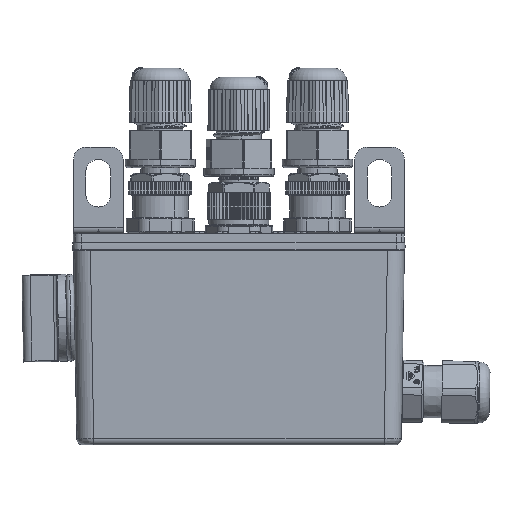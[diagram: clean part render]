
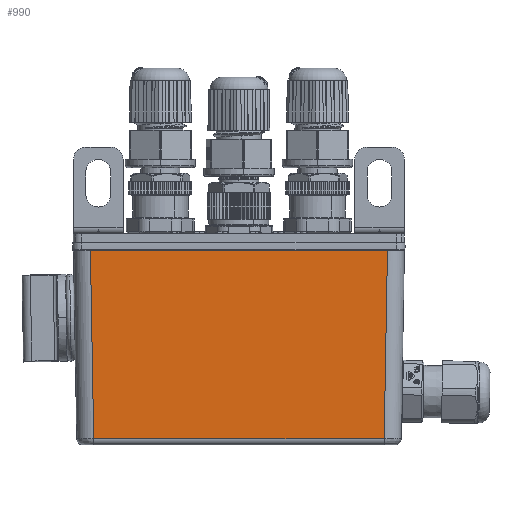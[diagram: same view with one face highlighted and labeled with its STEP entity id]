
A CAD part, front view. The second image highlights one B-rep face of the part: STEP entity #990.
In plain terms, the highlighted planar face has unit normal (0, -1, -0.018).
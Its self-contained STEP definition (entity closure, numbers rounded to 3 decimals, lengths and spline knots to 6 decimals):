
#990=ADVANCED_FACE('54599:1057',(#8113),#8114,.T.);
#8113=FACE_OUTER_BOUND('',#26534,.T.);
#8114=PLANE('',#26535);
#26534=EDGE_LOOP('',(#72871,#72872,#72873,#72874));
#26535=AXIS2_PLACEMENT_3D('',#72875,#72876,#72877);
#72871=ORIENTED_EDGE('',*,*,#126064,.F.);
#72872=ORIENTED_EDGE('',*,*,#126063,.F.);
#72873=ORIENTED_EDGE('',*,*,#126106,.T.);
#72874=ORIENTED_EDGE('',*,*,#126065,.F.);
#72875=CARTESIAN_POINT('',(-0.000397,0.000397,0.000751));
#72876=DIRECTION('',(0.,-1.,-0.017));
#72877=DIRECTION('',(0.0,0.017,-1.));
#126063=EDGE_CURVE('54599:2011',#144367,#144323,#144369,.T.);
#126064=EDGE_CURVE('54599:1948',#144323,#144337,#144370,.T.);
#126065=EDGE_CURVE('54599:2008',#144337,#144371,#144372,.T.);
#126106=EDGE_CURVE('54599:1387',#144367,#144371,#144436,.T.);
#144323=VERTEX_POINT('',#177573);
#144337=VERTEX_POINT('',#177618);
#144367=VERTEX_POINT('',#177727);
#144369=LINE('',#177738,#177739);
#144370=LINE('',#177740,#177741);
#144371=VERTEX_POINT('',#177742);
#144372=LINE('',#177743,#177744);
#144436=LINE('',#177827,#177828);
#177573=CARTESIAN_POINT('',(0.035106,0.000795,-0.022026));
#177618=CARTESIAN_POINT('',(-0.035106,0.000795,-0.022026));
#177727=CARTESIAN_POINT('',(0.035901,0.,0.0235));
#177738=CARTESIAN_POINT('',(0.035901,0.,0.0235));
#177739=VECTOR('',#265238,1.);
#177740=CARTESIAN_POINT('',(0.035106,0.000795,-0.022026));
#177741=VECTOR('',#265239,1.0);
#177742=CARTESIAN_POINT('',(-0.035901,0.,0.0235));
#177743=CARTESIAN_POINT('',(-0.035106,0.000795,-0.022026));
#177744=VECTOR('',#265240,1.);
#177827=CARTESIAN_POINT('',(0.035901,0.,0.0235));
#177828=VECTOR('',#265338,1.0);
#265238=DIRECTION('',(-0.017,0.017,-1.));
#265239=DIRECTION('',(-1.0,0.0,0.0));
#265240=DIRECTION('',(-0.017,-0.017,1.));
#265338=DIRECTION('',(-1.0,0.0,0.0));
